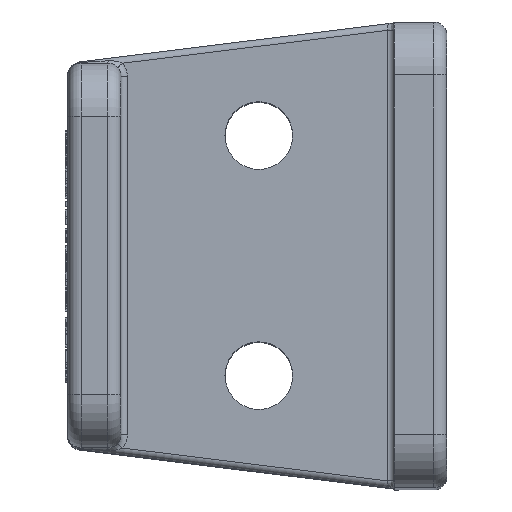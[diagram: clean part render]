
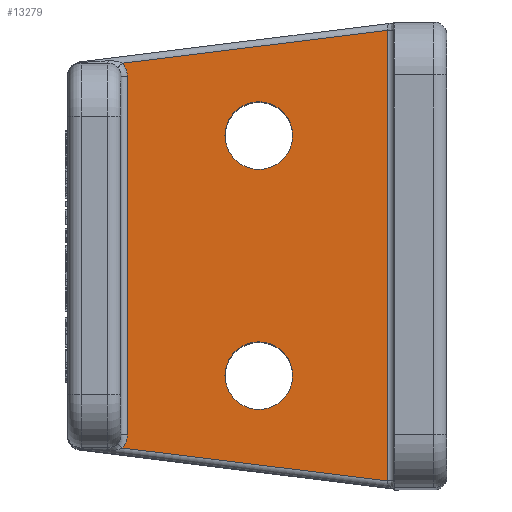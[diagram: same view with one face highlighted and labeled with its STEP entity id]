
A CAD part, top view. The second image highlights one B-rep face of the part: STEP entity #13279.
In plain terms, the highlighted planar face has unit normal (0, 0, 1).
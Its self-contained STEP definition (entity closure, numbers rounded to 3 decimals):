
#142=CARTESIAN_POINT('',(-10.2,-9.05,15.95));
#143=DIRECTION('',(0.,0.,1.));
#144=DIRECTION('',(1.,0.,0.));
#145=AXIS2_PLACEMENT_3D('',#142,#143,#144);
#147=CARTESIAN_POINT('',(-10.2,-9.05,15.95));
#148=DIRECTION('',(0.,0.,1.));
#149=DIRECTION('',(-1.,0.,0.));
#150=AXIS2_PLACEMENT_3D('',#147,#148,#149);
#152=CARTESIAN_POINT('',(-10.2,9.05,15.95));
#153=DIRECTION('',(0.,0.,1.));
#154=DIRECTION('',(1.,0.,0.));
#155=AXIS2_PLACEMENT_3D('',#152,#153,#154);
#157=CARTESIAN_POINT('',(-10.2,9.05,15.95));
#158=DIRECTION('',(0.,0.,1.));
#159=DIRECTION('',(-1.,0.,0.));
#160=AXIS2_PLACEMENT_3D('',#157,#158,#159);
#162=DIRECTION('',(0.,1.,0.));
#163=VECTOR('',#162,33.968);
#164=CARTESIAN_POINT('',(-0.5,-16.984,
15.95));
#165=LINE('',#164,#163);
#166=DIRECTION('',(-0.992,0.123,0.));
#167=VECTOR('',#166,20.14);
#168=CARTESIAN_POINT('',(-0.5,-16.984,
15.95));
#169=LINE('',#168,#167);
#170=CARTESIAN_POINT('',(-21.6,-13.5,15.95));
#171=DIRECTION('',(0.,0.,-1.));
#172=DIRECTION('',(1.,0.,0.));
#173=AXIS2_PLACEMENT_3D('',#170,#171,#172);
#175=DIRECTION('',(0.,-1.,0.));
#176=VECTOR('',#175,27.);
#177=CARTESIAN_POINT('',(-20.1,13.5,15.95));
#178=LINE('',#177,#176);
#179=CARTESIAN_POINT('',(-21.6,13.5,15.95));
#180=DIRECTION('',(0.,0.,-1.));
#181=DIRECTION('',(0.742,0.671,0.));
#182=AXIS2_PLACEMENT_3D('',#179,#180,#181);
#184=DIRECTION('',(0.992,0.123,0.));
#185=VECTOR('',#184,20.14);
#186=CARTESIAN_POINT('',(-20.487,14.506,15.95));
#187=LINE('',#186,#185);
#778=CARTESIAN_POINT('',(-0.5,16.984,15.95));
#881=CARTESIAN_POINT('',(-20.487,-14.506,15.95));
#10210=CARTESIAN_POINT('',(-7.65,9.05,15.95));
#10211=VERTEX_POINT('',#10210);
#10212=CARTESIAN_POINT('',(-12.75,9.05,15.95));
#10213=VERTEX_POINT('',#10212);
#10214=CARTESIAN_POINT('',(-7.65,-9.05,15.95));
#10215=VERTEX_POINT('',#10214);
#10216=CARTESIAN_POINT('',(-12.75,-9.05,15.95));
#10217=VERTEX_POINT('',#10216);
#12377=VERTEX_POINT('',#881);
#12379=CARTESIAN_POINT('',(-20.1,-13.5,15.95));
#12380=VERTEX_POINT('',#12379);
#12383=CARTESIAN_POINT('',(-20.1,13.5,15.95));
#12384=VERTEX_POINT('',#12383);
#12387=CARTESIAN_POINT('',(-20.487,14.506,15.95));
#12388=VERTEX_POINT('',#12387);
#12434=VERTEX_POINT('',#778);
#12436=CARTESIAN_POINT('',(-0.5,-16.984,
15.95));
#12437=VERTEX_POINT('',#12436);
#13249=CARTESIAN_POINT('',(0.,0.,15.95));
#13250=DIRECTION('',(0.,0.,1.));
#13251=DIRECTION('',(1.,0.,0.));
#13252=AXIS2_PLACEMENT_3D('',#13249,#13250,#13251);
#13253=PLANE('',#13252);
#13254=ORIENTED_EDGE('',*,*,#13240,.F.);
#13256=ORIENTED_EDGE('',*,*,#13255,.T.);
#13258=ORIENTED_EDGE('',*,*,#13257,.F.);
#13260=ORIENTED_EDGE('',*,*,#13259,.F.);
#13262=ORIENTED_EDGE('',*,*,#13261,.F.);
#13264=ORIENTED_EDGE('',*,*,#13263,.T.);
#13265=EDGE_LOOP('',(#13254,#13256,#13258,#13260,#13262,#13264));
#13266=FACE_OUTER_BOUND('',#13265,.F.);
#13268=ORIENTED_EDGE('',*,*,#13267,.T.);
#13270=ORIENTED_EDGE('',*,*,#13269,.T.);
#13271=EDGE_LOOP('',(#13268,#13270));
#13272=FACE_BOUND('',#13271,.F.);
#13274=ORIENTED_EDGE('',*,*,#13273,.T.);
#13276=ORIENTED_EDGE('',*,*,#13275,.T.);
#13277=EDGE_LOOP('',(#13274,#13276));
#13278=FACE_BOUND('',#13277,.F.);
#13279=ADVANCED_FACE('',(#13266,#13272,#13278),#13253,.T.);
#146=CIRCLE('',#145,2.55);
#151=CIRCLE('',#150,2.55);
#156=CIRCLE('',#155,2.55);
#161=CIRCLE('',#160,2.55);
#174=CIRCLE('',#173,1.5);
#183=CIRCLE('',#182,1.5);
#13240=EDGE_CURVE('',#12437,#12434,#165,.T.);
#13255=EDGE_CURVE('',#12437,#12377,#169,.T.);
#13257=EDGE_CURVE('',#12380,#12377,#174,.T.);
#13259=EDGE_CURVE('',#12384,#12380,#178,.T.);
#13261=EDGE_CURVE('',#12388,#12384,#183,.T.);
#13263=EDGE_CURVE('',#12388,#12434,#187,.T.);
#13267=EDGE_CURVE('',#10211,#10213,#156,.T.);
#13269=EDGE_CURVE('',#10213,#10211,#161,.T.);
#13273=EDGE_CURVE('',#10215,#10217,#146,.T.);
#13275=EDGE_CURVE('',#10217,#10215,#151,.T.);
